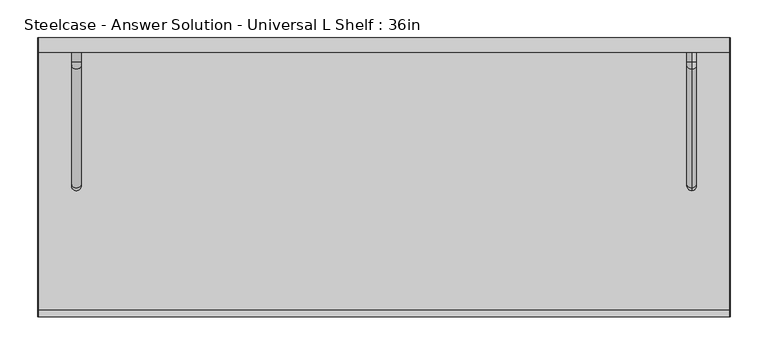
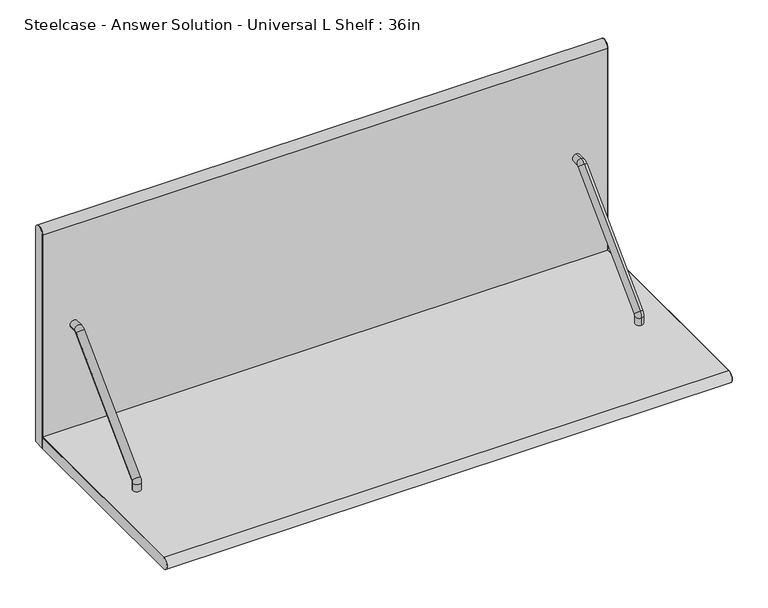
"""IFC4 building model written with IfcOpenShell, lengths in millimetres: furniture geometry, Steelcase - Answer Solution - Universal L Shelf : 36in."""

from ifc_helpers import new_model, si_unit, point, frame, frame_2d, origin, place, context, project, spatial, polyline, circle_curve, ellipse_curve, trimmed, segment, composite_curve, outline, extrude, source, transform, mapped, element, save
from ifc_brep_helpers import plane_surface, cylinder_surface, revolved_surface, advanced_brep


def steelcase_answer_solution_universal_l_shelf_36in_8979d4c7(model_context):
    return source(origin(), model_context, "Body", "SolidModel", [
        advanced_brep(
        [(863.6, -19.05, 1474.7549677), (863.6, -19.05, 1487.4549677), (863.6, -31.5185531, 1474.7549677), (863.6, -31.5185531, 1487.4549677), (863.6, -40.9494499, 1483.5485623), (863.6, -31.9691938, 1474.5683062), (863.6, -188.7383749, 1317.7991251), (863.6, -197.718631, 1326.7793812), (863.6, -201.6125, 1317.3787499), (863.6, -188.9125, 1317.3787499), (863.6, -188.9125, 1304.925), (863.6, -201.6125, 1304.925)],
        [
            (0, 1, circle_curve(frame((863.6, -19.05, 1481.1049677), z_axis=(0.0, 1.0, 0.0), x_axis=(0.0, 0.0, 1.0)), 6.35)),
            (1, 0, circle_curve(frame((863.6, -19.05, 1481.1049677), z_axis=(0.0, 1.0, 0.0), x_axis=(0.0, 0.0, 1.0)), 6.35)),
            (0, 2),
            (2, 3, circle_curve(frame((863.6, -31.5185531, 1481.1049677), z_axis=(0.0, 1.0, 0.0), x_axis=(0.0, 0.0, 1.0)), 6.35)),
            (3, 1),
            (3, 2, circle_curve(frame((863.6, -31.5185531, 1481.1049677), z_axis=(0.0, 1.0, 0.0), x_axis=(0.0, 0.0, 1.0)), 6.35)),
            (4, 3, circle_curve(frame((863.6, -31.5185531, 1474.1176655), z_axis=(-1.0, 0.0, 0.0), x_axis=(0.0, 0.0, 1.0)), 13.3373022)),
            (2, 5, circle_curve(frame((863.6, -31.5185531, 1474.1176655), z_axis=(1.0, 0.0, 0.0), x_axis=(0.0, 0.0, 1.0)), 0.6373022)),
            (5, 4, circle_curve(frame((863.6, -36.4593219, 1479.0584342), z_axis=(0.0, 0.7071067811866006, 0.7071067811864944), x_axis=(0.0, -0.7071067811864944, 0.7071067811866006)), 6.35)),
            (4, 5, circle_curve(frame((863.6, -36.4593219, 1479.0584342), z_axis=(0.0, 0.7071067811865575, 0.7071067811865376), x_axis=(0.0, -0.7071067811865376, 0.7071067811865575)), 6.35)),
            (5, 6),
            (6, 7, circle_curve(frame((863.6, -193.228503, 1322.2892532), z_axis=(0.0, 0.7071067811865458, 0.7071067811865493), x_axis=(0.0, -0.7071067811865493, 0.7071067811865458)), 6.35)),
            (7, 4),
            (7, 6, circle_curve(frame((863.6, -193.228503, 1322.2892532), z_axis=(0.0, 0.7071067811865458, 0.7071067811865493), x_axis=(0.0, -0.7071067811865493, 0.7071067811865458)), 6.35)),
            (8, 7, circle_curve(frame((863.6, -188.3179998, 1317.3787499), z_axis=(-1.0, 0.0, 0.0), x_axis=(0.0, -0.7071067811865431, 0.7071067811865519)), 13.2945002)),
            (6, 9, circle_curve(frame((863.6, -188.3179998, 1317.3787499), z_axis=(1.0, 0.0, 0.0), x_axis=(0.0, -0.7071067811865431, 0.7071067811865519)), 0.5945002)),
            (9, 8, circle_curve(frame((863.6, -195.2625, 1317.3787499), z_axis=(0.0, 0.0, 1.0), x_axis=(0.0, -1.0, 0.0)), 6.35)),
            (8, 9, circle_curve(frame((863.6, -195.2625, 1317.3787499), z_axis=(0.0, 0.0, 1.0), x_axis=(0.0, -1.0, 0.0)), 6.35)),
            (10, 11, circle_curve(frame((863.6, -195.2625, 1304.925), z_axis=(0.0, 0.0, -1.0), x_axis=(0.0, -1.0, 0.0)), 6.35)),
            (11, 10, circle_curve(frame((863.6, -195.2625, 1304.925), z_axis=(0.0, 0.0, -1.0), x_axis=(0.0, -1.0, 0.0)), 6.35)),
            (9, 10),
            (11, 8),
        ],
        [
            plane_surface(frame((863.6, -19.05, 1481.1049677), z_axis=(0.0, 1.0, 0.0), x_axis=(-1.0, 0.0, 0.0))),
            cylinder_surface(frame((863.6, -19.05, 1481.1049677), z_axis=(0.0, 1.0, 0.0), x_axis=(0.0, 0.0, 1.0)), 6.35),
            revolved_surface(trimmed(ellipse_curve(frame((863.6, -31.5185531, 1481.1049677), z_axis=(0.0, 1.0, 0.0), x_axis=(0.0, 0.0, 1.0)), 6.35, 6.35), [point((863.6, -31.5185531, 1474.7549677))], [point((863.6, -31.5185531, 1487.4549677))], True, "CARTESIAN"), (863.6, -31.5185531, 1474.1176655), (1.0, 0.0, 0.0)),
            revolved_surface(trimmed(ellipse_curve(frame((863.6, -31.5185531, 1481.1049677), z_axis=(0.0, 1.0, 0.0), x_axis=(0.0, 0.0, 1.0)), 6.35, 6.35), [point((863.6, -31.5185531, 1487.4549677))], [point((863.6, -31.5185531, 1474.7549677))], True, "CARTESIAN"), (863.6, -31.5185531, 1474.1176655), (1.0, 0.0, 0.0)),
            cylinder_surface(frame((863.6, -36.4593219, 1479.0584342), z_axis=(0.0, 0.7071067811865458, 0.7071067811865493), x_axis=(0.0, -0.7071067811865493, 0.7071067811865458)), 6.35),
            revolved_surface(trimmed(ellipse_curve(frame((863.6, -193.228503, 1322.2892532), z_axis=(0.0, 0.7071067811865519, 0.7071067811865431), x_axis=(0.0, -0.7071067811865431, 0.7071067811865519)), 6.35, 6.35), [point((863.6, -188.7383749, 1317.7991251))], [point((863.6, -197.718631, 1326.7793812))], True, "CARTESIAN"), (863.6, -188.3179998, 1317.3787499), (1.0, 0.0, 0.0)),
            revolved_surface(trimmed(ellipse_curve(frame((863.6, -193.228503, 1322.2892532), z_axis=(0.0, 0.7071067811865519, 0.7071067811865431), x_axis=(0.0, -0.7071067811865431, 0.7071067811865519)), 6.35, 6.35), [point((863.6, -197.718631, 1326.7793812))], [point((863.6, -188.7383749, 1317.7991251))], True, "CARTESIAN"), (863.6, -188.3179998, 1317.3787499), (1.0, 0.0, 0.0)),
            plane_surface(frame((863.6, -195.2625, 1304.925), z_axis=(0.0, 0.0, -1.0), x_axis=(-1.0, 0.0, 0.0))),
            cylinder_surface(frame((863.6, -195.2625, 1317.3787499), z_axis=(0.0, 0.0, 1.0), x_axis=(0.0, -1.0, 0.0)), 6.35),
        ],
        [
            (0, [[1, 2]]),
            (1, [[-1, 3, 4, 5]]),
            (1, [[-2, -5, 6, -3]]),
            (2, [[7, -4, 8, 9]]),
            (3, [[-8, -6, -7, 10]]),
            (4, [[-9, 11, 12, 13]]),
            (4, [[-10, -13, 14, -11]]),
            (5, [[15, -12, 16, 17]]),
            (6, [[-16, -14, -15, 18]]),
            (7, [[19, 20]]),
            (8, [[-17, 21, -20, 22]]),
            (8, [[-18, -22, -19, -21]]),
        ],
    ),
        advanced_brep(
        [(44.45, -19.05, 1481.1049677), (57.15, -19.05, 1481.1049677), (44.45, -31.5185531, 1481.1049677), (57.15, -31.5185531, 1481.1049677), (57.15, -36.4593219, 1479.0584342), (44.45, -36.4593219, 1479.0584342), (44.45, -193.228503, 1322.2892532), (57.15, -193.228503, 1322.2892532), (57.15, -195.2625, 1317.3787499), (44.45, -195.2625, 1317.3787499), (44.45, -195.2625, 1304.925), (57.15, -195.2625, 1304.925)],
        [
            (0, 1, circle_curve(frame((50.8, -19.05, 1481.1049677), z_axis=(0.0, 1.0, 0.0), x_axis=(1.0, 0.0, 0.0)), 6.35)),
            (1, 0, circle_curve(frame((50.8, -19.05, 1481.1049677), z_axis=(0.0, 1.0, 0.0), x_axis=(1.0, 0.0, 0.0)), 6.35)),
            (0, 2),
            (2, 3, circle_curve(frame((50.8, -31.5185531, 1481.1049677), z_axis=(0.0, 1.0, 0.0), x_axis=(1.0, 0.0, 0.0)), 6.35)),
            (3, 1),
            (3, 2, circle_curve(frame((50.8, -31.5185531, 1481.1049677), z_axis=(0.0, 1.0, 0.0), x_axis=(1.0, 0.0, 0.0)), 6.35)),
            (4, 3, circle_curve(frame((57.15, -31.5185531, 1474.1176655), z_axis=(-1.0, 0.0, 0.0), x_axis=(0.0, 0.0, 1.0)), 6.9873022)),
            (2, 5, circle_curve(frame((44.45, -31.5185531, 1474.1176655), z_axis=(1.0, 0.0, 0.0), x_axis=(0.0, 0.0, 1.0)), 6.9873022)),
            (5, 4, circle_curve(frame((50.8, -36.4593219, 1479.0584342), z_axis=(0.0, 0.7071067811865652, 0.7071067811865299), x_axis=(1.0, 0.0, 0.0)), 6.35)),
            (4, 5, circle_curve(frame((50.8, -36.4593219, 1479.0584342), z_axis=(0.0, 0.7071067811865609, 0.7071067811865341), x_axis=(1.0, 0.0, 0.0)), 6.35)),
            (5, 6),
            (6, 7, circle_curve(frame((50.8, -193.228503, 1322.2892532), z_axis=(0.0, 0.7071067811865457, 0.7071067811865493), x_axis=(1.0, 0.0, 0.0)), 6.35)),
            (7, 4),
            (7, 6, circle_curve(frame((50.8, -193.228503, 1322.2892532), z_axis=(0.0, 0.7071067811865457, 0.7071067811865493), x_axis=(1.0, 0.0, 0.0)), 6.35)),
            (8, 7, circle_curve(frame((57.15, -188.3179998, 1317.3787499), z_axis=(-1.0, 0.0, 0.0), x_axis=(0.0, -0.7071067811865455, 0.7071067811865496)), 6.9445002)),
            (6, 9, circle_curve(frame((44.45, -188.3179998, 1317.3787499), z_axis=(1.0, 0.0, 0.0), x_axis=(0.0, -0.7071067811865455, 0.7071067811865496)), 6.9445002)),
            (9, 8, circle_curve(frame((50.8, -195.2625, 1317.3787499), z_axis=(0.0, 0.0, 1.0), x_axis=(1.0, 0.0, 0.0)), 6.35)),
            (8, 9, circle_curve(frame((50.8, -195.2625, 1317.3787499), z_axis=(0.0, 0.0, 1.0), x_axis=(1.0, 0.0, 0.0)), 6.35)),
            (10, 11, circle_curve(frame((50.8, -195.2625, 1304.925), z_axis=(0.0, 0.0, -1.0), x_axis=(1.0, 0.0, 0.0)), 6.35)),
            (11, 10, circle_curve(frame((50.8, -195.2625, 1304.925), z_axis=(0.0, 0.0, -1.0), x_axis=(1.0, 0.0, 0.0)), 6.35)),
            (9, 10),
            (11, 8),
        ],
        [
            plane_surface(frame((50.8, -19.05, 1481.1049677), z_axis=(0.0, 1.0, 0.0), x_axis=(-1.0, 0.0, 0.0))),
            cylinder_surface(frame((50.8, -19.05, 1481.1049677), z_axis=(0.0, 1.0, 0.0), x_axis=(1.0, 0.0, 0.0)), 6.35),
            revolved_surface(trimmed(ellipse_curve(frame((50.8, -31.5185531, 1481.1049677), z_axis=(0.0, 1.0, 0.0), x_axis=(1.0, 0.0, 0.0)), 6.35, 6.35), [point((44.45, -31.5185531, 1481.1049677))], [point((57.15, -31.5185531, 1481.1049677))], True, "CARTESIAN"), (50.8, -31.5185531, 1474.1176655), (1.0, 0.0, 0.0)),
            revolved_surface(trimmed(ellipse_curve(frame((50.8, -31.5185531, 1481.1049677), z_axis=(0.0, 1.0, 0.0), x_axis=(1.0, 0.0, 0.0)), 6.35, 6.35), [point((57.15, -31.5185531, 1481.1049677))], [point((44.45, -31.5185531, 1481.1049677))], True, "CARTESIAN"), (50.8, -31.5185531, 1474.1176655), (1.0, 0.0, 0.0)),
            cylinder_surface(frame((50.8, -36.4593219, 1479.0584342), z_axis=(0.0, 0.7071067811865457, 0.7071067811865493), x_axis=(1.0, 0.0, 0.0)), 6.35),
            revolved_surface(trimmed(ellipse_curve(frame((50.8, -193.228503, 1322.2892532), z_axis=(0.0, 0.7071067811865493, 0.7071067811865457), x_axis=(1.0, 0.0, 0.0)), 6.35, 6.35), [point((44.45, -193.228503, 1322.2892532))], [point((57.15, -193.228503, 1322.2892532))], True, "CARTESIAN"), (50.8, -188.3179998, 1317.3787499), (1.0, 0.0, 0.0)),
            revolved_surface(trimmed(ellipse_curve(frame((50.8, -193.228503, 1322.2892532), z_axis=(0.0, 0.7071067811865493, 0.7071067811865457), x_axis=(1.0, 0.0, 0.0)), 6.35, 6.35), [point((57.15, -193.228503, 1322.2892532))], [point((44.45, -193.228503, 1322.2892532))], True, "CARTESIAN"), (50.8, -188.3179998, 1317.3787499), (1.0, 0.0, 0.0)),
            plane_surface(frame((50.8, -195.2625, 1304.925), z_axis=(0.0, 0.0, -1.0), x_axis=(-1.0, 0.0, 0.0))),
            cylinder_surface(frame((50.8, -195.2625, 1317.3787499), z_axis=(0.0, 0.0, 1.0), x_axis=(1.0, 0.0, 0.0)), 6.35),
        ],
        [
            (0, [[1, 2]]),
            (1, [[-1, 3, 4, 5]]),
            (1, [[-2, -5, 6, -3]]),
            (2, [[7, -4, 8, 9]]),
            (3, [[-8, -6, -7, 10]]),
            (4, [[-9, 11, 12, 13]]),
            (4, [[-10, -13, 14, -11]]),
            (5, [[15, -12, 16, 17]]),
            (6, [[-16, -14, -15, 18]]),
            (7, [[19, 20]]),
            (8, [[-17, 21, -20, 22]]),
            (8, [[-18, -22, -19, -21]]),
        ],
    ),
        extrude(outline(composite_curve([segment(polyline([(-358.7557809, 1304.925), (-19.05, 1304.925), (-19.05, 1285.875), (-358.7557809, 1285.875)]), True, "CONTINUOUS"), segment(trimmed(circle_curve(frame_2d((-358.7557809, 1295.4)), 9.525), [point((-358.7557809, 1285.875))], [point((-358.7557809, 1304.925))], False, "CARTESIAN"), True, "CONTINUOUS")], self_intersect=False)), frame((914.199975, 0.0, 0.0), z_axis=(1.0, 0.0, 0.0), x_axis=(0.0, 1.0, 0.0)), (0.0, 0.0, 1.0), 0.200025),
        extrude(outline(composite_curve([segment(trimmed(circle_curve(frame_2d((-9.525, 1650.9853521)), 9.525), [point((-19.05, 1650.9853521))], [point((0.0, 1650.9853521))], False, "CARTESIAN"), True, "CONTINUOUS"), segment(polyline([(0.0, 1650.9853521), (0.0, 1285.875), (-19.05, 1285.875), (-19.05, 1650.9853521)]), True, "CONTINUOUS")], self_intersect=False)), frame((914.199975, 0.0, 0.0), z_axis=(1.0, 0.0, 0.0), x_axis=(0.0, 1.0, 0.0)), (0.0, 0.0, 1.0), 0.200025),
        extrude(outline(composite_curve([segment(polyline([(-358.7557809, 1304.925), (-19.05, 1304.925), (-19.05, 1285.875), (-358.7557809, 1285.875)]), True, "CONTINUOUS"), segment(trimmed(circle_curve(frame_2d((-358.7557809, 1295.4)), 9.525), [point((-358.7557809, 1285.875))], [point((-358.7557809, 1304.925))], False, "CARTESIAN"), True, "CONTINUOUS")], self_intersect=False)), frame((0.0, 0.0, 0.0), z_axis=(1.0, 0.0, 0.0), x_axis=(0.0, 1.0, 0.0)), (0.0, 0.0, 1.0), 0.200025),
        extrude(outline(composite_curve([segment(trimmed(circle_curve(frame_2d((-9.525, 1650.9853521)), 9.525), [point((-19.05, 1650.9853521))], [point((0.0, 1650.9853521))], False, "CARTESIAN"), True, "CONTINUOUS"), segment(polyline([(0.0, 1650.9853521), (0.0, 1285.875), (-19.05, 1285.875), (-19.05, 1650.9853521)]), True, "CONTINUOUS")], self_intersect=False)), frame((0.0, 0.0, 0.0), z_axis=(1.0, 0.0, 0.0), x_axis=(0.0, 1.0, 0.0)), (0.0, 0.0, 1.0), 0.200025),
        extrude(outline(composite_curve([segment(polyline([(0.0, 1650.9853521), (0.0, 1285.875), (-358.7557809, 1285.875)]), True, "CONTINUOUS"), segment(trimmed(circle_curve(frame_2d((-358.7557809, 1295.4)), 9.525), [point((-358.7557809, 1285.875))], [point((-358.7557809, 1304.925))], False, "CARTESIAN"), True, "CONTINUOUS"), segment(polyline([(-358.7557809, 1304.925), (-19.05, 1304.925), (-19.05, 1650.9853521)]), True, "CONTINUOUS"), segment(trimmed(circle_curve(frame_2d((-9.525, 1650.9853521)), 9.525), [point((-19.05, 1650.9853521))], [point((0.0, 1650.9853521))], False, "CARTESIAN"), True, "CONTINUOUS")], self_intersect=False)), frame((0.200025, 0.0, 0.0), z_axis=(1.0, 0.0, 0.0), x_axis=(0.0, 1.0, 0.0)), (0.0, 0.0, 1.0), 913.99995),
    ])


if __name__ == "__main__":
    model = new_model("IFC4")
    model_context = context("Model", 3, world=origin())
    ifc_project = project(units=[si_unit("LENGTHUNIT", "METRE", prefix="MILLI")], contexts=[model_context])
    site = spatial("IfcSite", under=ifc_project)
    building = spatial("IfcBuilding", under=site)
    placement = place(None, origin())
    steelcase_answer_solution_universal_l_shelf_36in_shape = steelcase_answer_solution_universal_l_shelf_36in_8979d4c7(model_context)
    element("IfcFurniture", 1, ObjectType="Steelcase - Answer Solution - Universal L Shelf : 36in", at=placement, inside=building, context=model_context, shape_type="MappedRepresentation", body=[
        mapped(steelcase_answer_solution_universal_l_shelf_36in_shape, transform((0.0, 0.0, 0.0), x_axis=(1.0, 0.0, 0.0), y_axis=(0.0, 1.0, 0.0), z_axis=(0.0, 0.0, 1.0))),
    ])
    save(model, "model.ifc")
